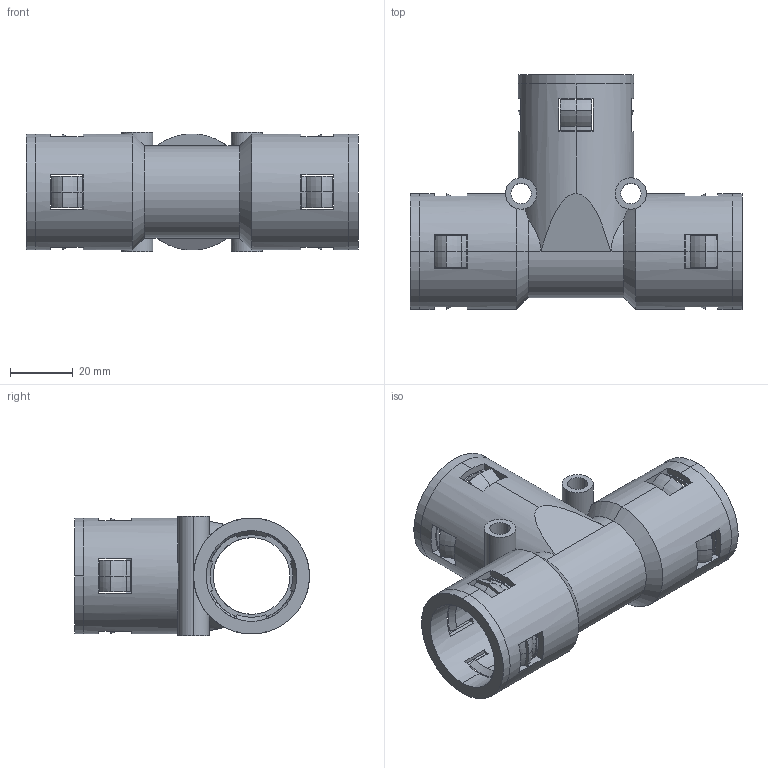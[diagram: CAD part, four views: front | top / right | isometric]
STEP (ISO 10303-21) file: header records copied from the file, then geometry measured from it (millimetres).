
FILE_DESCRIPTION (( 'STEP AP203' ), '1' );
FILE_NAME ('WQT-PA AD28.5-2X28.5.STEP', '2016-03-24T07:55:17', ( '' ), ( '' ), 'SwSTEP 2.0', 'SolidWorks 2010', '' );
FILE_SCHEMA (( 'CONFIG_CONTROL_DESIGN' ));
Length unit declared in the file: millimetre
Products named in the file (4): WQT-PA AD28.5-2X28.5; WQT-PA AD28.5-2X28.5-01; NSK-AD28.5; GFD-AD28.5
Assembly tree (7 placements, depth 2):
  WQT-PA AD28.5-2X28.5
    GFD-AD28.5  x3
    NSK-AD28.5  x3
    WQT-PA AD28.5-2X28.5-01
Bounding box: 106 x 75 x 38 mm (x, y, z)
Volume: 55616.1 mm3; surface area: 53221.9 mm2
Topology: 7 solids, 7 shells, 491 faces, 1314 edges, 824 vertices
Faces by surface type: plane 207, cone 114, torus 90, cylinder 80
Entity records: 8942 total; most frequent: CARTESIAN_POINT 2025, DIRECTION 1428, ORIENTED_EDGE 1332, EDGE_CURVE 666, AXIS2_PLACEMENT_3D 577, VERTEX_POINT 420, CIRCLE 324, EDGE_LOOP 278
